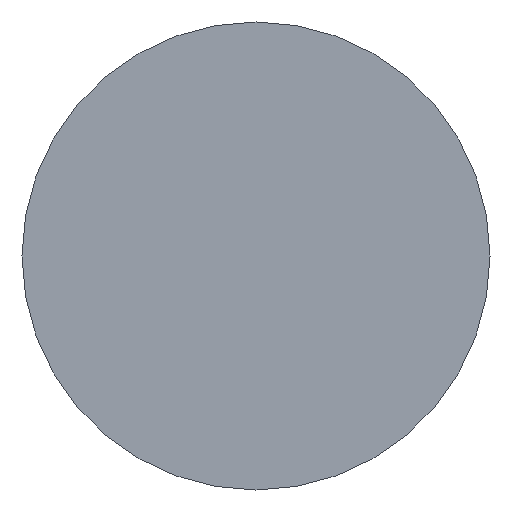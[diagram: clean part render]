
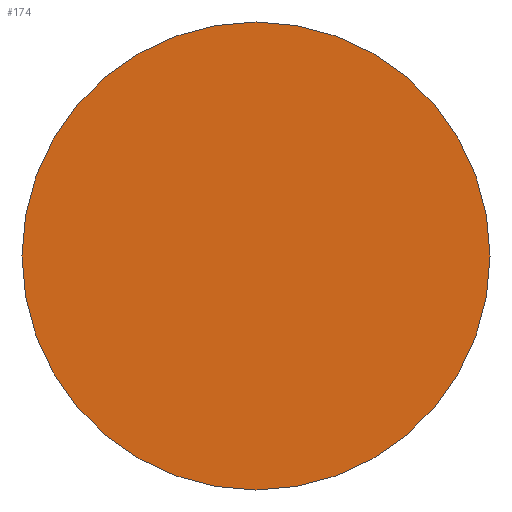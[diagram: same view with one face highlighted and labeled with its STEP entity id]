
A CAD part, left-side view. The second image highlights one B-rep face of the part: STEP entity #174.
In plain terms, the highlighted planar face has unit normal (-1, 0, 0).
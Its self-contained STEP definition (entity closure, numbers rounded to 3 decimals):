
#1 = DIRECTION ( 'NONE',  ( 1., 0., 0. ) ) ;
#30 = DIRECTION ( 'NONE',  ( 0., 0., -1. ) ) ;
#36 = CIRCLE ( 'NONE', #244, 1.4 ) ;
#39 = EDGE_CURVE ( 'NONE', #276, #292, #36, .T. ) ;
#79 = DIRECTION ( 'NONE',  ( -1., 0., 0. ) ) ;
#81 = DIRECTION ( 'NONE',  ( 0., 0., 1. ) ) ;
#85 = CARTESIAN_POINT ( 'NONE',  ( 0., 0., 0. ) ) ;
#92 = ORIENTED_EDGE ( 'NONE', *, *, #237, .T. ) ;
#103 = PLANE ( 'NONE',  #134 ) ;
#134 = AXIS2_PLACEMENT_3D ( 'NONE', #273, #1, #30 ) ;
#136 = EDGE_LOOP ( 'NONE', ( #92, #258 ) ) ;
#146 = CARTESIAN_POINT ( 'NONE',  ( 0., 0., 0. ) ) ;
#153 = AXIS2_PLACEMENT_3D ( 'NONE', #85, #79, #81 ) ;
#171 = DIRECTION ( 'NONE',  ( -1., 0., 0. ) ) ;
#174 = ADVANCED_FACE ( 'NONE', ( #250 ), #103, .F. ) ;
#202 = CIRCLE ( 'NONE', #153, 1.4 ) ;
#209 = CARTESIAN_POINT ( 'NONE',  ( 0., 0., 1.4 ) ) ;
#236 = CARTESIAN_POINT ( 'NONE',  ( 0., 0., -1.4 ) ) ;
#237 = EDGE_CURVE ( 'NONE', #292, #276, #202, .T. ) ;
#244 = AXIS2_PLACEMENT_3D ( 'NONE', #146, #171, #290 ) ;
#250 = FACE_OUTER_BOUND ( 'NONE', #136, .T. ) ;
#258 = ORIENTED_EDGE ( 'NONE', *, *, #39, .T. ) ;
#273 = CARTESIAN_POINT ( 'NONE',  ( 0., 0., 0. ) ) ;
#276 = VERTEX_POINT ( 'NONE', #236 ) ;
#290 = DIRECTION ( 'NONE',  ( 0., 0., 1. ) ) ;
#292 = VERTEX_POINT ( 'NONE', #209 ) ;
